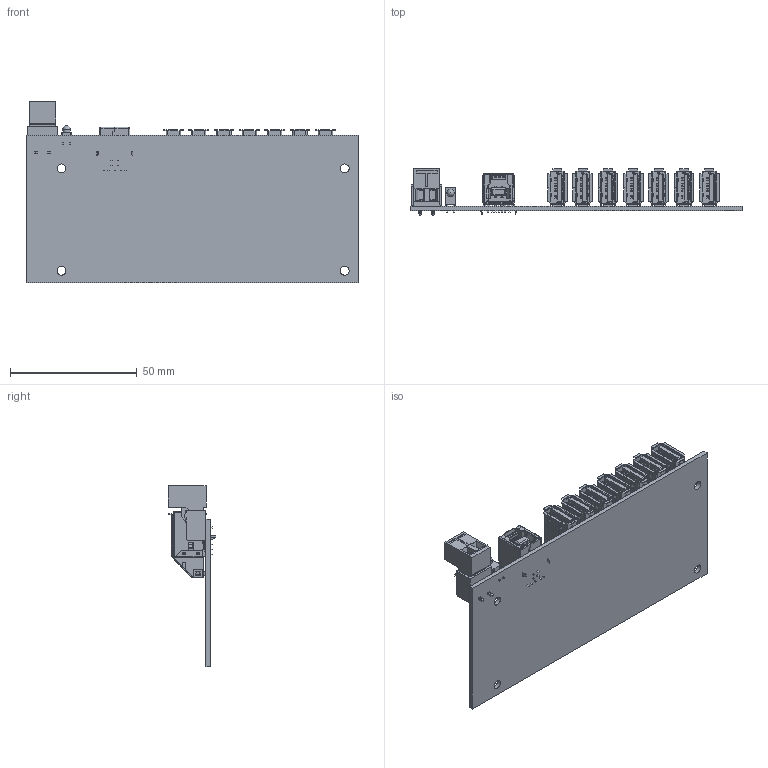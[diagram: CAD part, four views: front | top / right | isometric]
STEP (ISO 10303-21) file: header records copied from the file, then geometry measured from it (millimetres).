
FILE_DESCRIPTION(/* description */ (''),/* implementation_level */ '2;1');
FILE_NAME(/* name */ 'C:/Users/Leo/Desktop/AA CoolGear CADs/CG-3X2C3AM-PCBA/USBG-7u3ml-PCBA Model3D LPV1.step',/* time_stamp */ '2021-09-10T11:00:31-04:00',/* author */ (''),/* organization */ (''),/* preprocessor_version */ 'ST-DEVELOPER v18.1',/* originating_system */ 'Autodesk Translation Framework v10.10.0.1391',/* authorisation */ '');
FILE_SCHEMA (('AUTOMOTIVE_DESIGN { 1 0 10303 214 3 1 1 }'));
Products named in the file (1): FusionComponent
Bounding box: 131 x 18.9 x 71.78 mm (x, y, z)
Volume: 24390.4 mm3; surface area: 41539.5 mm2
Topology: 1 solids, 65 shells, 7079 faces, 20376 edges, 13092 vertices
Faces by surface type: plane 5441, cylinder 1583, bspline 38, cone 14, sphere 3
Full cylindrical faces by diameter (mm): 1.6 x2, 2.89 x1, 3.5 x4, 3.86 x2
Entity records: 230551 total; most frequent: CARTESIAN_POINT 41573, ORIENTED_EDGE 40738, DIRECTION 37778, EDGE_CURVE 20369, LINE 16960, VECTOR 16960, VERTEX_POINT 13092, AXIS2_PLACEMENT_3D 10409
